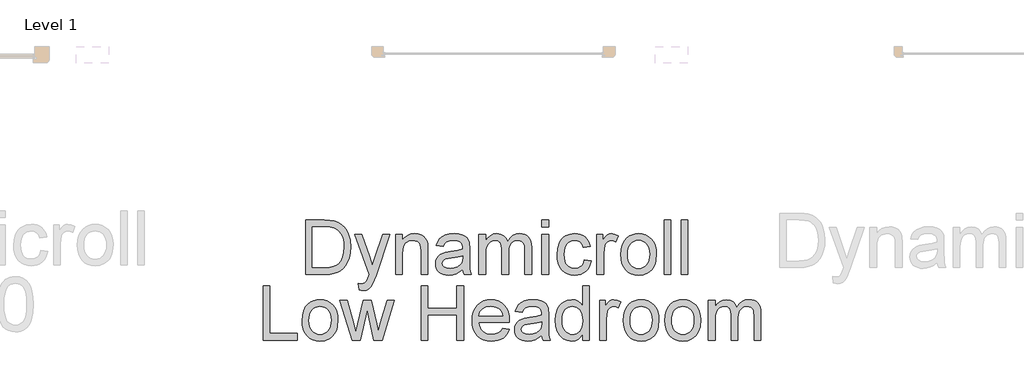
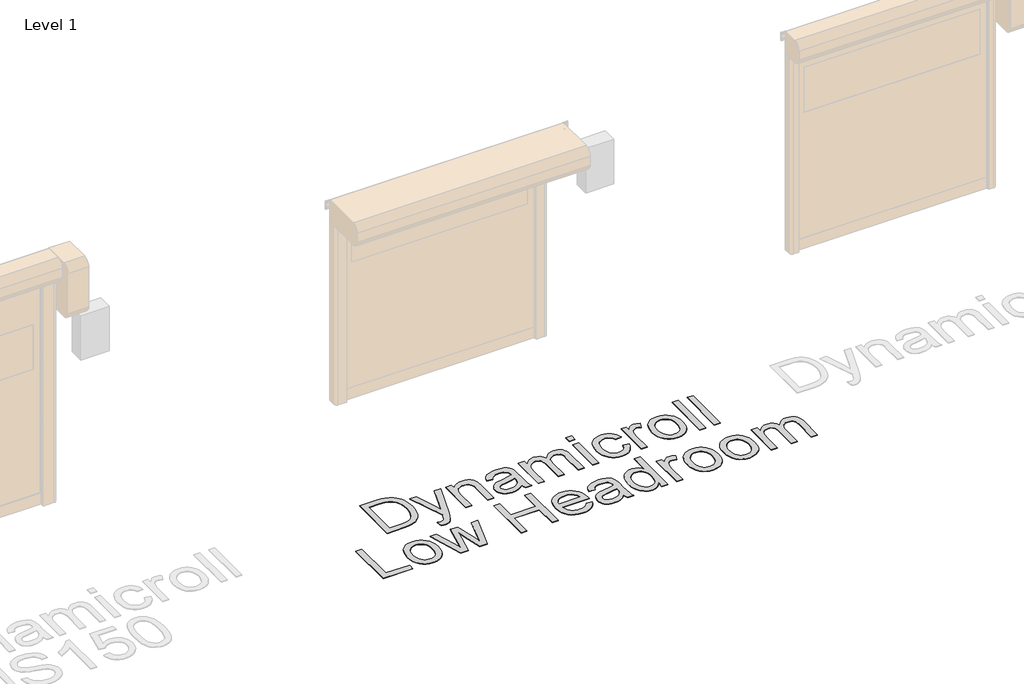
# One storey, part 10 of 20: 1 proxy.
"""IFC4 building model written with IfcOpenShell, lengths in millimetres."""

from ifc_helpers import new_model, si_unit, origin, origin_with_axes, place, context, project, spatial, polyline, outline, extrude, element, save

model = new_model("IFC4")

# Units and contexts
model_context = context("Model", 3, world=origin())
ifc_project = project(units=[si_unit("LENGTHUNIT", "METRE", prefix="MILLI")], contexts=[model_context])

# Site, building, storey
site = spatial("IfcSite", under=ifc_project)
building = spatial("IfcBuilding", under=site)
storey = spatial("IfcBuildingStorey", under=building, Name="Level 1", Elevation=0.0)

# Proxy
placement = place(None, origin())
element("IfcBuildingElementProxy", 1, Name="500mm", ObjectType="500mm", at=placement, inside=storey, context=model_context, shape_type="SweptSolid", body=[
    extrude(outline(polyline([(15153.8603048, 19116.7358376), (15153.8603048, 19619.0173884), (15327.1327245, 19619.0173884), (15378.9121153, 19617.2086352), (15416.773304, 19611.7823758), (15456.8111278, 19597.8335168), (15490.5949577, 19575.8525676), (15509.2113195, 19557.8876635), (15525.3291494, 19537.5928401), (15538.9484474, 19514.9680974), (15550.0692136, 19490.0134354), (15564.8764639, 19434.0340585), (15569.812214, 19370.5744143), (15566.4706192, 19316.6643736), (15556.4458348, 19269.2229246), (15541.178732, 19228.8325473), (15522.1101819, 19196.0757213), (15500.1598896, 19170.2166827), (15476.2475599, 19150.5196675), (15448.794366, 19135.9116866), (15416.221481, 19125.3197509), (15378.4675912, 19118.8818159), (15335.4713831, 19116.7358376), (15153.8603048, 19116.7358376)]), holes=[polyline([(15216.6454986, 19179.5210315), (15327.7458612, 19179.5210315), (15373.7004537, 19181.7896371), (15408.5572728, 19188.595454), (15434.8608354, 19199.5399434), (15455.1556588, 19214.2245664), (15476.9679955, 19241.4018488), (15493.3540727, 19276.5805645), (15503.6087833, 19319.9139979), (15507.0270201, 19371.555433), (15505.3523906, 19408.0064073), (15500.3285022, 19439.9814841), (15491.9553547, 19467.4806632), (15480.2329482, 19490.5039447), (15466.1116445, 19509.5724948), (15450.5418055, 19525.2074796), (15433.5234311, 19537.4088991), (15415.0565214, 19546.1767533), (15378.9427722, 19553.7183342), (15326.0290785, 19556.2321945), (15216.6454986, 19556.2321945), (15216.6454986, 19179.5210315)])]), origin_with_axes(), (0.0, 0.0, 1.0), 5.0),
    extrude(outline(polyline([(15648.2937063, 18975.4691515), (15640.4455571, 19035.924426), (15672.3286633, 19030.4061961), (15689.0979509, 19032.1383072), (15702.1271049, 19037.3346404), (15712.2745166, 19045.6273137), (15720.3985773, 19056.6484451), (15737.5664038, 19102.8789492), (15742.4714971, 19118.0847383), (15609.0529601, 19485.5988515), (15675.2717193, 19485.5988515), (15746.0276897, 19280.8112075), (15770.6757834, 19198.8961499), (15795.323877, 19271.2462756), (15868.0418847, 19485.5988515), (15933.7701346, 19485.5988515), (15805.3793182, 19107.9066698), (15772.024684, 19025.9916122), (15754.9488281, 18999.8413337), (15735.6043665, 18981.7231454), (15713.1329079, 18971.1465381), (15686.6760611, 18967.6210023), (15668.4965592, 18969.5830396), (15648.2937063, 18975.4691515)])), origin_with_axes(), (0.0, 0.0, 1.0), 5.0),
    extrude(outline(polyline([(15985.7641232, 19116.7358376), (15985.7641232, 19485.5988515), (16048.549317, 19485.5988515), (16048.549317, 19434.0953721), (16070.3616537, 19460.0617096), (16096.5579174, 19478.6090936), (16127.1381083, 19489.7375239), (16162.1022262, 19493.4470007), (16193.0502991, 19490.4579595), (16221.3925411, 19481.4908359), (16245.0289593, 19467.6646042), (16261.8595606, 19450.0982389), (16273.2792309, 19428.8377253), (16280.682856, 19403.9290485), (16283.993794, 19343.2285193), (16283.993794, 19116.7358376), (16221.2086001, 19116.7358376), (16221.2086001, 19334.7672335), (16219.399847, 19367.2328195), (16213.9735875, 19390.3174147), (16203.9641316, 19406.8567761), (16188.4057889, 19419.6866607), (16168.4635191, 19427.9180203), (16145.3022818, 19430.6618069), (16126.2375638, 19429.121301), (16108.5294107, 19424.4997834), (16092.1778224, 19416.7972542), (16077.182799, 19406.0137132), (16064.6556506, 19390.9228872), (16055.7076875, 19370.2985028), (16050.3389097, 19344.1405601), (16048.549317, 19312.4490591), (16048.549317, 19116.7358376), (15985.7641232, 19116.7358376)])), origin_with_axes(), (0.0, 0.0, 1.0), 5.0),
    extrude(outline(polyline([(16605.7679124, 19163.824733), (16575.7702014, 19138.1036502), (16544.8834422, 19121.2730489), (16512.4025277, 19111.9840285), (16477.6223508, 19108.8876884), (16449.6671512, 19110.750091), (16425.1531812, 19116.3372988), (16404.0804407, 19125.6493118), (16386.4489296, 19138.68613), (16372.5268954, 19154.6200189), (16362.5825852, 19172.6232441), (16356.6159991, 19192.6958054), (16354.627137, 19214.837703), (16357.6315067, 19240.8653542), (16366.6446155, 19264.5017724), (16380.5474893, 19284.7352821), (16398.2211535, 19300.5542079), (16418.9911578, 19312.5103727), (16442.1830519, 19321.1555996), (16496.5069598, 19330.5979042), (16560.702368, 19340.530718), (16605.4000304, 19352.1803146), (16605.7679124, 19366.1598304), (16601.445299, 19394.1801757), (16588.4774586, 19412.5129618), (16575.4023194, 19420.4530815), (16559.4760947, 19426.1245956), (16519.0703889, 19430.6618069), (16481.6690527, 19427.6421088), (16455.549431, 19418.5830147), (16437.7378111, 19401.8290555), (16425.2604801, 19375.7247622), (16362.4752863, 19383.5729115), (16373.3737904, 19417.9085644), (16389.6372402, 19444.8865773), (16412.7831491, 19465.5186259), (16444.3290302, 19480.8163855), (16482.9106544, 19490.2893469), (16527.1637928, 19493.4470007), (16569.608178, 19490.6572289), (16603.2540521, 19482.2879135), (16628.6225814, 19469.7032836), (16646.2349319, 19454.2675682), (16657.9151852, 19435.1836897), (16665.487423, 19411.6545704), (16668.5531063, 19356.7175258), (16668.5531063, 19278.6039155), (16671.7414169, 19169.526904), (16676.4625691, 19142.5642194), (16684.2494047, 19116.7358376), (16621.4642109, 19116.7358376), (16611.4087697, 19138.5635027), (16605.7679124, 19163.824733)]), holes=[polyline([(16605.7679124, 19289.3951207), (16563.5841103, 19278.9411407), (16504.4777364, 19270.1426296), (16450.4603968, 19259.9645611), (16436.4042389, 19253.00546), (16425.9962441, 19243.4098713), (16419.5583092, 19231.913559), (16417.4123309, 19219.252287), (16422.0874979, 19200.5822757), (16436.112999, 19185.2845161), (16459.1822657, 19175.0757907), (16490.9887299, 19171.6728823), (16524.7112461, 19175.4283443), (16554.5096877, 19186.6947304), (16578.6672721, 19203.2954054), (16595.4672165, 19223.0537342), (16602.9168269, 19243.4098713), (16605.4000304, 19271.6141576), (16605.7679124, 19289.3951207)])]), origin_with_axes(), (0.0, 0.0, 1.0), 5.0),
    extrude(outline(polyline([(16754.8827478, 19116.7358376), (16754.8827478, 19485.5988515), (16817.6679416, 19485.5988515), (16817.6679416, 19424.8983223), (16836.5525507, 19452.7807118), (16860.8327624, 19474.6237053), (16889.6808422, 19488.7411768), (16922.2690556, 19493.4470007), (16957.1871883, 19488.6492064), (16985.1768768, 19474.2558233), (17006.0848368, 19451.2172133), (17019.7577843, 19420.4837383), (17042.6431101, 19452.4051656), (17068.7474033, 19475.2061851), (17098.070664, 19488.8867968), (17130.6128922, 19493.4470007), (17155.7476631, 19491.5501092), (17177.8090865, 19485.8594346), (17196.7971624, 19476.3749769), (17212.7118908, 19463.0967361), (17225.2926886, 19445.8714281), (17234.2789728, 19424.5457687), (17239.6707432, 19399.1197579), (17241.4680001, 19369.5933957), (17241.4680001, 19116.7358376), (17178.6828062, 19116.7358376), (17178.6828062, 19342.6153827), (17177.2266067, 19373.9313375), (17172.858008, 19395.038567), (17164.6726336, 19409.4932637), (17151.7661069, 19420.8516203), (17135.1654319, 19428.2092602), (17115.8976124, 19430.6618069), (17098.105153, 19429.0906442), (17081.8838562, 19424.3771561), (17067.2337222, 19416.5213427), (17054.1547509, 19405.5232039), (17043.3980346, 19391.0608429), (17035.7146659, 19372.8123631), (17031.1046446, 19350.7777645), (17029.5679709, 19324.9570469), (17029.5679709, 19116.7358376), (16966.782777, 19116.7358376), (16966.782777, 19349.6051406), (16963.1499423, 19385.1057531), (16952.2514382, 19410.4282971), (16943.8246412, 19419.2804576), (16933.0755892, 19425.6034294), (16904.6107198, 19430.6618069), (16880.4224786, 19427.2895552), (16858.1349611, 19417.1728004), (16839.7408613, 19400.5567969), (16827.2328735, 19377.6867996), (16820.0591746, 19345.9569775), (16817.6679416, 19302.7614999), (16817.6679416, 19116.7358376), (16754.8827478, 19116.7358376)])), origin_with_axes(), (0.0, 0.0, 1.0), 5.0),
    extrude(outline(polyline([(17335.6457908, 19556.2321945), (17335.6457908, 19619.0173884), (17398.4309847, 19619.0173884), (17398.4309847, 19556.2321945), (17335.6457908, 19556.2321945)])), origin_with_axes(), (0.0, 0.0, 1.0), 5.0),
    extrude(outline(polyline([(17335.6457908, 19116.7358376), (17335.6457908, 19485.5988515), (17398.4309847, 19485.5988515), (17398.4309847, 19116.7358376), (17335.6457908, 19116.7358376)])), origin_with_axes(), (0.0, 0.0, 1.0), 5.0),
    extrude(outline(polyline([(17728.0532524, 19250.1543746), (17790.8384462, 19242.3062253), (17784.0096367, 19212.6802284), (17773.3333946, 19186.4648041), (17758.80972, 19163.6599525), (17740.4386129, 19144.2656736), (17718.9941582, 19128.7878051), (17695.2504411, 19117.7321847), (17669.2074615, 19111.0988125), (17640.8652195, 19108.8876884), (17605.6520148, 19111.9725322), (17574.079309, 19121.2270637), (17546.1471021, 19136.6512827), (17521.8553941, 19158.2451894), (17502.1928678, 19185.6025807), (17488.1482063, 19218.3172536), (17479.7214093, 19256.389208), (17476.912477, 19299.8184439), (17481.7102713, 19355.6905219), (17496.1036544, 19404.1129895), (17506.9561733, 19425.0631027), (17520.3225524, 19443.2157799), (17536.2027919, 19458.5710211), (17554.5968916, 19471.1288263), (17595.6004057, 19487.8674571), (17640.0068282, 19493.4470007), (17667.862393, 19491.5309486), (17693.0584776, 19485.7827925), (17715.5950819, 19476.2025322), (17735.4722059, 19462.7901678), (17752.3526246, 19445.8522676), (17765.8991126, 19425.6953999), (17776.1116701, 19402.3195648), (17782.990297, 19375.7247622), (17720.2051031, 19367.876613), (17708.8160897, 19395.2684932), (17691.0811118, 19414.9041947), (17667.9811882, 19426.7224038), (17640.4973375, 19430.6618069), (17619.1640139, 19428.7227622), (17599.9230191, 19422.9056281), (17582.7743532, 19413.2104047), (17567.7180161, 19399.6370919), (17555.4591151, 19381.8714573), (17546.7027572, 19359.5992681), (17541.4489424, 19332.8205246), (17539.6976708, 19301.5352266), (17541.4106214, 19269.7785797), (17546.549473, 19242.6894357), (17555.1142257, 19220.2677946), (17567.1048795, 19202.5136562), (17581.8623124, 19189.0208176), (17598.7274026, 19179.3830757), (17617.7001501, 19173.6004306), (17638.7805549, 19171.6728823), (17671.2921262, 19176.486005), (17697.9482424, 19190.9253733), (17708.7279513, 19201.8468701), (17717.3386893, 19215.3588692), (17728.0532524, 19250.1543746)])), origin_with_axes(), (0.0, 0.0, 1.0), 5.0),
    extrude(outline(polyline([(17845.7754908, 19116.7358376), (17845.7754908, 19485.5988515), (17900.7125354, 19485.5988515), (17900.7125354, 19431.0296889), (17921.0073588, 19462.6675404), (17939.7080269, 19481.3068949), (17958.4700087, 19490.4119742), (17978.9487731, 19493.4470007), (18010.2187427, 19488.6032211), (18041.9792216, 19474.0718823), (18021.0099479, 19417.785937), (17998.9370281, 19427.4428394), (17976.8641084, 19430.6618069), (17958.1174551, 19427.5654667), (17941.3634959, 19418.2764464), (17927.8285042, 19403.4998529), (17918.7387532, 19383.9407935), (17911.1052018, 19348.8693766), (17908.5606847, 19310.6096491), (17908.5606847, 19116.7358376), (17845.7754908, 19116.7358376)])), origin_with_axes(), (0.0, 0.0, 1.0), 5.0),
    extrude(outline(polyline([(18065.5236693, 19301.1673446), (18068.9189135, 19348.9383545), (18079.1046463, 19390.1028169), (18096.0808675, 19424.6607318), (18119.8475772, 19452.6120992), (18143.7752353, 19470.4773686), (18170.1860969, 19483.2382753), (18199.0801619, 19490.8948194), (18230.4574304, 19493.4470007), (18265.0958195, 19490.3391643), (18296.4156065, 19481.015655), (18324.4167913, 19465.4764728), (18349.0993739, 19443.7216177), (18369.2447452, 19416.4868537), (18383.6342962, 19384.5079449), (18392.2680268, 19347.7848911), (18395.1459369, 19306.3176925), (18390.0569027, 19242.8887052), (18383.6956098, 19216.8533898), (18374.7897999, 19194.6041933), (18363.4506038, 19175.3861911), (18349.7891526, 19158.4444588), (18333.8054464, 19143.7789964), (18315.499485, 19131.3898038), (18274.7718824, 19114.5132173), (18230.4574304, 19108.8876884), (18195.3132036, 19111.9840285), (18163.7021767, 19121.2730489), (18135.6243499, 19136.7547495), (18111.079723, 19158.4291304), (18091.1489495, 19185.9283096), (18076.9126827, 19218.884405), (18068.3709226, 19257.2974166), (18065.5236693, 19301.1673446)]), holes=[polyline([(18128.3088631, 19301.2899719), (18130.1252805, 19270.8362405), (18135.5745325, 19244.4675321), (18144.6566193, 19222.1838466), (18157.3715407, 19203.9851842), (18172.8379129, 19189.8485521), (18190.174352, 19179.7509577), (18209.3808578, 19173.6924011), (18230.4574304, 19171.6728823), (18251.4267042, 19173.7038974), (18270.5565679, 19179.796943), (18287.8470217, 19189.9520189), (18303.2980655, 19204.1691252), (18316.0129869, 19222.5478965), (18325.0950737, 19245.1879676), (18330.5443258, 19272.0893385), (18332.3607431, 19303.2520092), (18330.5328294, 19332.7400504), (18325.0490885, 19358.4189801), (18315.9095201, 19380.2887983), (18303.1141245, 19398.349505), (18287.6055991, 19412.486137), (18270.3266417, 19422.5837314), (18251.2772521, 19428.642288), (18230.4574304, 19430.6618069), (18209.3808578, 19428.6499522), (18190.174352, 19422.6143882), (18172.8379129, 19412.5551149), (18157.3715407, 19398.4721323), (18144.6566193, 19380.3271193), (18135.5745325, 19358.0817549), (18130.1252805, 19331.7360391), (18128.3088631, 19301.2899719)])]), origin_with_axes(), (0.0, 0.0, 1.0), 5.0),
    extrude(outline(polyline([(18465.77928, 19116.7358376), (18465.77928, 19619.0173884), (18528.5644739, 19619.0173884), (18528.5644739, 19116.7358376), (18465.77928, 19116.7358376)])), origin_with_axes(), (0.0, 0.0, 1.0), 5.0),
    extrude(outline(polyline([(18622.7422646, 19116.7358376), (18622.7422646, 19619.0173884), (18685.5274585, 19619.0173884), (18685.5274585, 19116.7358376), (18622.7422646, 19116.7358376)])), origin_with_axes(), (0.0, 0.0, 1.0), 5.0),
    extrude(outline(polyline([(14761.4528433, 18506.8617484), (14761.4528433, 19009.1432992), (14824.2380371, 19009.1432992), (14824.2380371, 18569.6469423), (15075.3788125, 18569.6469423), (15075.3788125, 18506.8617484), (14761.4528433, 18506.8617484)])), origin_with_axes(), (0.0, 0.0, 1.0), 5.0),
    extrude(outline(polyline([(15122.4677079, 18691.2932553), (15125.8629521, 18739.0642652), (15136.0486848, 18780.2287277), (15153.0249061, 18814.7866426), (15176.7916158, 18842.73801), (15200.7192739, 18860.6032794), (15227.1301355, 18873.3641861), (15256.0242005, 18881.0207301), (15287.401469, 18883.5729115), (15322.0398581, 18880.465075), (15353.3596451, 18871.1415657), (15381.3608299, 18855.6023835), (15406.0434125, 18833.8475285), (15426.1887838, 18806.6127645), (15440.5783348, 18774.6338557), (15449.2120653, 18737.9108019), (15452.0899755, 18696.4436033), (15447.0009413, 18633.0146159), (15440.6396484, 18606.9793006), (15431.7338385, 18584.7301041), (15420.3946424, 18565.5121019), (15406.7331912, 18548.5703696), (15390.7494849, 18533.9049072), (15372.4435236, 18521.5157146), (15331.715921, 18504.639128), (15287.401469, 18499.0135992), (15252.2572422, 18502.1099393), (15220.6462153, 18511.3989597), (15192.5683885, 18526.8806603), (15168.0237616, 18548.5550412), (15148.0929881, 18576.0542203), (15133.8567213, 18609.0103157), (15125.3149612, 18647.4233274), (15122.4677079, 18691.2932553)]), holes=[polyline([(15185.2529017, 18691.4158827), (15187.0693191, 18660.9621513), (15192.5185711, 18634.5934428), (15201.6006579, 18612.3097574), (15214.3155793, 18594.1110949), (15229.7819515, 18579.9744629), (15247.1183906, 18569.8768685), (15266.3248964, 18563.8183119), (15287.401469, 18561.798793), (15308.3707428, 18563.8298082), (15327.5006065, 18569.9228538), (15344.7910603, 18580.0779297), (15360.2421041, 18594.2950359), (15372.9570255, 18612.6738073), (15382.0391123, 18635.3138784), (15387.4883643, 18662.2152493), (15389.3047817, 18693.37792), (15387.476868, 18722.8659611), (15381.993127, 18748.5448908), (15372.8535587, 18770.414709), (15360.0581631, 18788.4754157), (15344.5496377, 18802.6120478), (15327.2706803, 18812.7096422), (15308.2212907, 18818.7681988), (15287.401469, 18820.7877176), (15266.3248964, 18818.775863), (15247.1183906, 18812.740299), (15229.7819515, 18802.6810257), (15214.3155793, 18788.5980431), (15201.6006579, 18770.4530301), (15192.5185711, 18748.2076657), (15187.0693191, 18721.8619499), (15185.2529017, 18691.4158827)])]), origin_with_axes(), (0.0, 0.0, 1.0), 5.0),
    extrude(outline(polyline([(15583.9143571, 18506.8617484), (15471.7103486, 18875.7247622), (15536.9480891, 18875.7247622), (15600.5916743, 18660.5137951), (15619.5989107, 18583.6264581), (15635.1725818, 18657.6933664), (15685.8176698, 18875.7247622), (15760.6203422, 18875.7247622), (15811.0201755, 18658.3065031), (15824.877064, 18591.2293526), (15844.7426917, 18661.9853231), (15908.5089042, 18875.7247622), (15973.9918994, 18875.7247622), (15860.9294995, 18506.8617484), (15785.0231812, 18506.8617484), (15736.8306398, 18723.1763616), (15722.851124, 18790.621394), (15660.6790668, 18506.8617484), (15583.9143571, 18506.8617484)])), origin_with_axes(), (0.0, 0.0, 1.0), 5.0),
    extrude(outline(polyline([(16221.2086001, 18506.8617484), (16221.2086001, 19009.1432992), (16283.993794, 19009.1432992), (16283.993794, 18805.0914192), (16550.8308678, 18805.0914192), (16550.8308678, 19009.1432992), (16613.6160616, 19009.1432992), (16613.6160616, 18506.8617484), (16550.8308678, 18506.8617484), (16550.8308678, 18742.3062253), (16283.993794, 18742.3062253), (16283.993794, 18506.8617484), (16221.2086001, 18506.8617484)])), origin_with_axes(), (0.0, 0.0, 1.0), 5.0),
    extrude(outline(polyline([(16973.8951622, 18616.7358376), (17035.4540828, 18608.8876884), (17026.0156103, 18584.2319305), (17013.2738641, 18562.5039002), (16997.2288442, 18543.7035974), (16977.8805505, 18527.8310221), (16955.4282525, 18515.2233996), (16930.0712196, 18506.2179549), (16901.8094517, 18500.8146881), (16870.6429489, 18499.0135992), (16831.6857785, 18502.1214356), (16796.9745794, 18511.4449449), (16766.5093517, 18526.9841271), (16740.2900953, 18548.7389822), (16719.2058585, 18576.1040377), (16704.1456893, 18608.4738212), (16695.1095878, 18645.8483326), (16692.0975539, 18688.227572), (16695.1402446, 18732.0438505), (16704.2683166, 18770.6637958), (16719.48177, 18804.0874079), (16740.7806046, 18832.3146868), (16766.9308831, 18854.7401601), (16796.6986679, 18870.7583553), (16830.083959, 18880.3692724), (16867.0867563, 18883.5729115), (16902.8977693, 18880.3769366), (16935.2828812, 18870.7890121), (16964.242092, 18854.809138), (16989.7754017, 18832.4373141), (17010.618216, 18804.2713489), (17025.5059405, 18770.9090505), (17034.4385752, 18732.3504188), (17037.4161201, 18688.595454), (17037.0482381, 18671.6728823), (16754.8827478, 18671.6728823), (16758.5194146, 18646.6185855), (16765.7505951, 18624.6759574), (16776.5762892, 18605.8449977), (16790.996497, 18590.1257067), (16808.2141408, 18577.7326819), (16827.4321429, 18568.8805214), (16848.6505034, 18563.5692251), (16871.8692223, 18561.798793), (16905.2851701, 18565.0790742), (16933.4281428, 18574.9199175), (16956.2981401, 18591.9344598), (16973.8951622, 18616.7358376)]), holes=[polyline([(16754.8827478, 18734.4580761), (16974.6309262, 18734.4580761), (16966.1389835, 18767.6287693), (16949.4923232, 18791.357158), (16932.370482, 18804.2330279), (16912.8880647, 18813.4300777), (16891.0450713, 18818.9483077), (16866.8415017, 18820.7877176), (16824.5197438, 18814.9169341), (16806.1064835, 18807.5784547), (16789.524969, 18797.3045836), (16775.610599, 18784.5705016), (16765.1987721, 18769.8513897), (16758.2894883, 18753.1472479), (16754.8827478, 18734.4580761)])]), origin_with_axes(), (0.0, 0.0, 1.0), 5.0),
    extrude(outline(polyline([(17335.6457908, 18553.9506438), (17305.6480798, 18528.229561), (17274.7613206, 18511.3989597), (17242.2804061, 18502.1099393), (17207.5002292, 18499.0135992), (17179.5450297, 18500.8760018), (17155.0310596, 18506.4632096), (17133.9583191, 18515.7752226), (17116.326808, 18528.8120408), (17102.4047738, 18544.7459297), (17092.4604636, 18562.7491549), (17086.4938775, 18582.8217162), (17084.5050155, 18604.9636138), (17087.5093851, 18630.991265), (17096.522494, 18654.6276831), (17110.4253677, 18674.8611929), (17128.0990319, 18690.6801187), (17148.8690362, 18702.6362835), (17172.0609303, 18711.2815104), (17226.3848383, 18720.7238149), (17290.5802464, 18730.6566288), (17335.2779088, 18742.3062253), (17335.6457908, 18756.2857411), (17331.3231774, 18784.3060864), (17318.3553371, 18802.6388725), (17305.2801978, 18810.5789923), (17289.3539731, 18816.2505064), (17248.9482673, 18820.7877176), (17211.5469311, 18817.7680196), (17185.4273095, 18808.7089255), (17167.6156895, 18791.9549663), (17155.1383585, 18765.850673), (17092.3531647, 18773.6988223), (17103.2516688, 18808.0344751), (17119.5151187, 18835.0124881), (17142.6610275, 18855.6445367), (17174.2069086, 18870.9422963), (17212.7885329, 18880.4152577), (17257.0416712, 18883.5729115), (17299.4860564, 18880.7831397), (17333.1319305, 18872.4138243), (17358.5004598, 18859.8291944), (17376.1128103, 18844.393479), (17387.7930637, 18825.3096005), (17395.3653014, 18801.7804812), (17398.4309847, 18746.8434366), (17398.4309847, 18668.7298263), (17401.6192953, 18559.6528147), (17406.3404476, 18532.6901302), (17414.1272831, 18506.8617484), (17351.3420893, 18506.8617484), (17341.2866481, 18528.6894135), (17335.6457908, 18553.9506438)]), holes=[polyline([(17335.6457908, 18679.5210315), (17293.4619887, 18669.0670515), (17234.3556148, 18660.2685404), (17180.3382752, 18650.0904719), (17166.2821173, 18643.1313708), (17155.8741225, 18633.5357821), (17149.4361876, 18622.0394697), (17147.2902093, 18609.3781977), (17151.9653763, 18590.7081865), (17165.9908774, 18575.4104269), (17189.0601442, 18565.2017015), (17220.8666083, 18561.798793), (17254.5891246, 18565.5542551), (17284.3875662, 18576.8206412), (17308.5451505, 18593.4213162), (17325.345095, 18613.179645), (17332.7947054, 18633.5357821), (17335.2779088, 18661.7400684), (17335.6457908, 18679.5210315)])]), origin_with_axes(), (0.0, 0.0, 1.0), 5.0),
    extrude(outline(polyline([(17712.3569539, 18506.8617484), (17712.3569539, 18566.0907496), (17693.5719795, 18536.7444963), (17670.8169453, 18515.7828868), (17644.0918512, 18503.2059211), (17613.3966972, 18499.0135992), (17572.8070504, 18505.0836521), (17535.6509689, 18523.2938109), (17504.1970583, 18552.3718169), (17480.7139243, 18591.0454116), (17466.090615, 18637.7510966), (17461.2161785, 18690.9253733), (17465.7074046, 18743.4405281), (17479.1810826, 18790.8666487), (17489.2825091, 18811.9968708), (17501.6218843, 18830.5059337), (17516.1992084, 18846.3938373), (17533.0144813, 18859.6605818), (17570.9829688, 18877.5948291), (17613.1514425, 18883.5729115), (17643.8695891, 18879.2962833), (17671.0315431, 18866.4663987), (17694.0548246, 18846.8000404), (17712.3569539, 18822.013991), (17712.3569539, 19009.1432992), (17775.1421477, 19009.1432992), (17775.1421477, 18506.8617484), (17712.3569539, 18506.8617484)]), holes=[polyline([(17524.0013724, 18691.170628), (17525.7718045, 18660.7245608), (17531.0831008, 18634.378845), (17539.9352613, 18612.1334806), (17552.328286, 18593.9884676), (17567.1278721, 18579.905485), (17583.1997168, 18569.8462117), (17600.54382, 18563.8106477), (17619.1601818, 18561.798793), (17637.864682, 18563.7186772), (17655.1053184, 18569.4783297), (17670.882091, 18579.0777505), (17685.1949999, 18592.5169396), (17697.0783548, 18609.903196), (17705.5664654, 18631.3438185), (17710.6593318, 18656.8388072), (17712.3569539, 18686.3881621), (17710.6286749, 18718.7847703), (17705.4438381, 18746.5675251), (17696.8024433, 18769.7364266), (17684.7044906, 18788.2914747), (17670.0773492, 18802.508581), (17653.8483883, 18812.6636569), (17636.0176078, 18818.7567025), (17616.5850078, 18820.7877176), (17597.600764, 18818.8371766), (17580.2566608, 18812.9855537), (17564.5526981, 18803.2328487), (17550.488876, 18789.5790617), (17538.9005932, 18771.7252886), (17530.6232483, 18749.3726253), (17525.6568413, 18722.5210718), (17524.0013724, 18691.170628)])]), origin_with_axes(), (0.0, 0.0, 1.0), 5.0),
    extrude(outline(polyline([(17869.3199385, 18506.8617484), (17869.3199385, 18875.7247622), (17924.2569831, 18875.7247622), (17924.2569831, 18821.1555996), (17944.5518065, 18852.7934512), (17963.2524746, 18871.4328056), (17982.0144564, 18880.537885), (18002.4932208, 18883.5729115), (18033.7631904, 18878.7291319), (18065.5236693, 18864.1977931), (18044.5543955, 18807.9118478), (18022.4814758, 18817.5687502), (18000.4085561, 18820.7877176), (17981.6619028, 18817.6913775), (17964.9079436, 18808.4023571), (17951.3729519, 18793.6257637), (17942.2832009, 18774.0667042), (17934.6496495, 18738.9952874), (17932.1051324, 18700.7355599), (17932.1051324, 18506.8617484), (17869.3199385, 18506.8617484)])), origin_with_axes(), (0.0, 0.0, 1.0), 5.0),
    extrude(outline(polyline([(18089.068117, 18691.2932553), (18092.4633612, 18739.0642652), (18102.649094, 18780.2287277), (18119.6253152, 18814.7866426), (18143.3920249, 18842.73801), (18167.319683, 18860.6032794), (18193.7305446, 18873.3641861), (18222.6246096, 18881.0207301), (18254.0018781, 18883.5729115), (18288.6402672, 18880.465075), (18319.9600542, 18871.1415657), (18347.961239, 18855.6023835), (18372.6438216, 18833.8475285), (18392.7891929, 18806.6127645), (18407.1787439, 18774.6338557), (18415.8124744, 18737.9108019), (18418.6903846, 18696.4436033), (18413.6013504, 18633.0146159), (18407.2400575, 18606.9793006), (18398.3342476, 18584.7301041), (18386.9950515, 18565.5121019), (18373.3336003, 18548.5703696), (18357.349894, 18533.9049072), (18339.0439327, 18521.5157146), (18298.3163301, 18504.639128), (18254.0018781, 18499.0135992), (18218.8576513, 18502.1099393), (18187.2466244, 18511.3989597), (18159.1687976, 18526.8806603), (18134.6241707, 18548.5550412), (18114.6933972, 18576.0542203), (18100.4571304, 18609.0103157), (18091.9153703, 18647.4233274), (18089.068117, 18691.2932553)]), holes=[polyline([(18151.8533108, 18691.4158827), (18153.6697282, 18660.9621513), (18159.1189802, 18634.5934428), (18168.201067, 18612.3097574), (18180.9159884, 18594.1110949), (18196.3823606, 18579.9744629), (18213.7187997, 18569.8768685), (18232.9253055, 18563.8183119), (18254.0018781, 18561.798793), (18274.9711519, 18563.8298082), (18294.1010156, 18569.9228538), (18311.3914694, 18580.0779297), (18326.8425132, 18594.2950359), (18339.5574346, 18612.6738073), (18348.6395214, 18635.3138784), (18354.0887734, 18662.2152493), (18355.9051908, 18693.37792), (18354.0772771, 18722.8659611), (18348.5935361, 18748.5448908), (18339.4539678, 18770.414709), (18326.6585722, 18788.4754157), (18311.1500468, 18802.6120478), (18293.8710894, 18812.7096422), (18274.8216998, 18818.7681988), (18254.0018781, 18820.7877176), (18232.9253055, 18818.775863), (18213.7187997, 18812.740299), (18196.3823606, 18802.6810257), (18180.9159884, 18788.5980431), (18168.201067, 18770.4530301), (18159.1189802, 18748.2076657), (18153.6697282, 18721.8619499), (18151.8533108, 18691.4158827)])]), origin_with_axes(), (0.0, 0.0, 1.0), 5.0),
    extrude(outline(polyline([(18473.6274293, 18691.2932553), (18477.0226735, 18739.0642652), (18487.2084062, 18780.2287277), (18504.1846275, 18814.7866426), (18527.9513372, 18842.73801), (18551.8789953, 18860.6032794), (18578.2898569, 18873.3641861), (18607.1839219, 18881.0207301), (18638.5611904, 18883.5729115), (18673.1995795, 18880.465075), (18704.5193665, 18871.1415657), (18732.5205513, 18855.6023835), (18757.2031339, 18833.8475285), (18777.3485052, 18806.6127645), (18791.7380562, 18774.6338557), (18800.3717867, 18737.9108019), (18803.2496969, 18696.4436033), (18798.1606627, 18633.0146159), (18791.7993698, 18606.9793006), (18782.8935599, 18584.7301041), (18771.5543638, 18565.5121019), (18757.8929126, 18548.5703696), (18741.9092063, 18533.9049072), (18723.603245, 18521.5157146), (18682.8756424, 18504.639128), (18638.5611904, 18499.0135992), (18603.4169636, 18502.1099393), (18571.8059367, 18511.3989597), (18543.7281099, 18526.8806603), (18519.183483, 18548.5550412), (18499.2527095, 18576.0542203), (18485.0164427, 18609.0103157), (18476.4746826, 18647.4233274), (18473.6274293, 18691.2932553)]), holes=[polyline([(18536.4126231, 18691.4158827), (18538.2290404, 18660.9621513), (18543.6782925, 18634.5934428), (18552.7603793, 18612.3097574), (18565.4753007, 18594.1110949), (18580.9416729, 18579.9744629), (18598.278112, 18569.8768685), (18617.4846178, 18563.8183119), (18638.5611904, 18561.798793), (18659.5304641, 18563.8298082), (18678.6603279, 18569.9228538), (18695.9507817, 18580.0779297), (18711.4018255, 18594.2950359), (18724.1167469, 18612.6738073), (18733.1988337, 18635.3138784), (18738.6480857, 18662.2152493), (18740.4645031, 18693.37792), (18738.6365894, 18722.8659611), (18733.1528484, 18748.5448908), (18724.0132801, 18770.414709), (18711.2178845, 18788.4754157), (18695.7093591, 18802.6120478), (18678.4304017, 18812.7096422), (18659.3810121, 18818.7681988), (18638.5611904, 18820.7877176), (18617.4846178, 18818.775863), (18598.278112, 18812.740299), (18580.9416729, 18802.6810257), (18565.4753007, 18788.5980431), (18552.7603793, 18770.4530301), (18543.6782925, 18748.2076657), (18538.2290404, 18721.8619499), (18536.4126231, 18691.4158827)])]), origin_with_axes(), (0.0, 0.0, 1.0), 5.0),
    extrude(outline(polyline([(18873.88304, 18506.8617484), (18873.88304, 18875.7247622), (18936.6682338, 18875.7247622), (18936.6682338, 18815.024233), (18955.5528429, 18842.9066226), (18979.8330546, 18864.7496161), (19008.6811344, 18878.8670876), (19041.2693478, 18883.5729115), (19076.1874805, 18878.7751171), (19104.177169, 18864.3817341), (19125.085129, 18841.3431241), (19138.7580765, 18810.6096491), (19161.6434023, 18842.5310764), (19187.7476956, 18865.3320959), (19217.0709563, 18879.0127076), (19249.6131844, 18883.5729115), (19274.7479553, 18881.6760199), (19296.8093787, 18875.9853453), (19315.7974546, 18866.5008876), (19331.712183, 18853.2226469), (19344.2929808, 18835.9973389), (19353.279265, 18814.6716795), (19358.6710355, 18789.2456687), (19360.4682923, 18759.7193064), (19360.4682923, 18506.8617484), (19297.6830984, 18506.8617484), (19297.6830984, 18732.7412935), (19296.2268989, 18764.0572483), (19291.8583002, 18785.1644778), (19283.6729258, 18799.6191745), (19270.7663991, 18810.9775311), (19254.1657241, 18818.335171), (19234.8979046, 18820.7877176), (19217.1054452, 18819.2165549), (19200.8841485, 18814.5030669), (19186.2340144, 18806.6472534), (19173.1550431, 18795.6491146), (19162.3983268, 18781.1867537), (19154.7149581, 18762.9382739), (19150.1049368, 18740.9036752), (19148.5682631, 18715.0829577), (19148.5682631, 18506.8617484), (19085.7830692, 18506.8617484), (19085.7830692, 18739.7310514), (19082.1502345, 18775.2316639), (19071.2517304, 18800.5542079), (19062.8249335, 18809.4063684), (19052.0758814, 18815.7293402), (19023.611012, 18820.7877176), (18999.4227709, 18817.415466), (18977.1352533, 18807.2987111), (18958.7411536, 18790.6827077), (18946.2331657, 18767.8127103), (18939.0594668, 18736.0828882), (18936.6682338, 18692.8874106), (18936.6682338, 18506.8617484), (18873.88304, 18506.8617484)])), origin_with_axes(), (0.0, 0.0, 1.0), 5.0),
])

save(model, "model.ifc")
